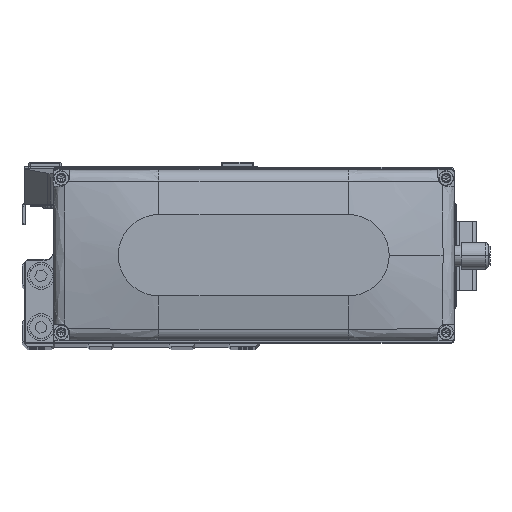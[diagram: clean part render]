
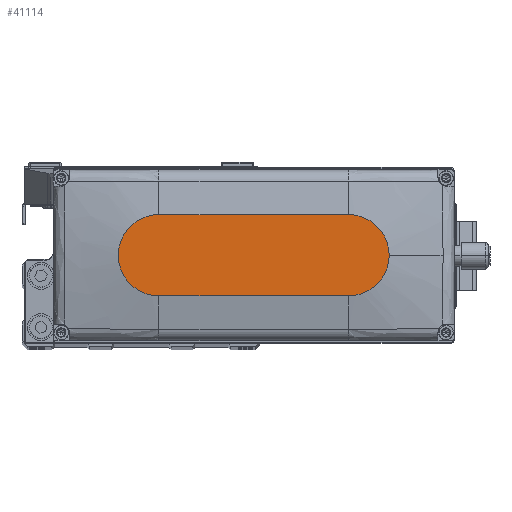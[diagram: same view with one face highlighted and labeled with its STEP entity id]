
A CAD part, top view. The second image highlights one B-rep face of the part: STEP entity #41114.
In plain terms, the highlighted planar face has unit normal (0, 0, 1).
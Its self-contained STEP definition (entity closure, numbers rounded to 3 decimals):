
#1634 = DIRECTION ( 'NONE',  ( 1., 0., 0. ) ) ;
#1853 = AXIS2_PLACEMENT_3D ( 'NONE', #15791, #30787, #45799 ) ;
#3166 = VERTEX_POINT ( 'NONE', #39329 ) ;
#3648 = DIRECTION ( 'NONE',  ( 1., 0., 0. ) ) ;
#3756 = EDGE_CURVE ( 'NONE', #29617, #7966, #44303, .T. ) ;
#4377 = EDGE_CURVE ( 'NONE', #3166, #38015, #37286, .T. ) ;
#5183 = CARTESIAN_POINT ( 'NONE',  ( 35., 0., 35. ) ) ;
#5510 = DIRECTION ( 'NONE',  ( 0., 0., 1. ) ) ;
#6248 = LINE ( 'NONE', #21286, #8942 ) ;
#6611 = CARTESIAN_POINT ( 'NONE',  ( -35., 15., 35. ) ) ;
#7966 = VERTEX_POINT ( 'NONE', #42661 ) ;
#8018 = CARTESIAN_POINT ( 'NONE',  ( 35., 15., 35. ) ) ;
#8442 = ORIENTED_EDGE ( 'NONE', *, *, #46826, .T. ) ;
#8727 = AXIS2_PLACEMENT_3D ( 'NONE', #39239, #5510, #20540 ) ;
#8942 = VECTOR ( 'NONE', #36270, 1000. ) ;
#9212 = FACE_OUTER_BOUND ( 'NONE', #17424, .T. ) ;
#11989 = EDGE_CURVE ( 'NONE', #18919, #29617, #6248, .T. ) ;
#15791 = CARTESIAN_POINT ( 'NONE',  ( -35., 0., 35. ) ) ;
#16070 = AXIS2_PLACEMENT_3D ( 'NONE', #22391, #37376, #3648 ) ;
#17424 = EDGE_LOOP ( 'NONE', ( #33823, #42800, #8442, #30718, #29832 ) ) ;
#18919 = VERTEX_POINT ( 'NONE', #8018 ) ;
#20212 = DIRECTION ( 'NONE',  ( 0., 0., 1. ) ) ;
#20382 = LINE ( 'NONE', #35364, #45460 ) ;
#20540 = DIRECTION ( 'NONE',  ( 1., 0., 0. ) ) ;
#21286 = CARTESIAN_POINT ( 'NONE',  ( -35., 15., 35. ) ) ;
#22391 = CARTESIAN_POINT ( 'NONE',  ( 35., 0., 35. ) ) ;
#24255 = PLANE ( 'NONE',  #8727 ) ;
#24290 = CARTESIAN_POINT ( 'NONE',  ( 50., 0., 35. ) ) ;
#28244 = EDGE_CURVE ( 'NONE', #38015, #18919, #41482, .T. ) ;
#29617 = VERTEX_POINT ( 'NONE', #6611 ) ;
#29832 = ORIENTED_EDGE ( 'NONE', *, *, #28244, .T. ) ;
#30718 = ORIENTED_EDGE ( 'NONE', *, *, #4377, .T. ) ;
#30787 = DIRECTION ( 'NONE',  ( 0., 0., 1. ) ) ;
#33823 = ORIENTED_EDGE ( 'NONE', *, *, #11989, .T. ) ;
#35198 = DIRECTION ( 'NONE',  ( 1., 0., 0. ) ) ;
#35364 = CARTESIAN_POINT ( 'NONE',  ( -35., -15., 35. ) ) ;
#36270 = DIRECTION ( 'NONE',  ( -1., 0., 0. ) ) ;
#37286 = CIRCLE ( 'NONE', #16070, 15. ) ;
#37376 = DIRECTION ( 'NONE',  ( 0., 0., 1. ) ) ;
#38015 = VERTEX_POINT ( 'NONE', #24290 ) ;
#39239 = CARTESIAN_POINT ( 'NONE',  ( 0., 0., 35. ) ) ;
#39329 = CARTESIAN_POINT ( 'NONE',  ( 35., -15., 35. ) ) ;
#41114 = ADVANCED_FACE ( 'NONE', ( #9212 ), #24255, .T. ) ;
#41482 = CIRCLE ( 'NONE', #47769, 15. ) ;
#42661 = CARTESIAN_POINT ( 'NONE',  ( -35., -15., 35. ) ) ;
#42800 = ORIENTED_EDGE ( 'NONE', *, *, #3756, .T. ) ;
#44303 = CIRCLE ( 'NONE', #1853, 15. ) ;
#45460 = VECTOR ( 'NONE', #1634, 1000. ) ;
#45799 = DIRECTION ( 'NONE',  ( 1., 0., 0. ) ) ;
#46826 = EDGE_CURVE ( 'NONE', #7966, #3166, #20382, .T. ) ;
#47769 = AXIS2_PLACEMENT_3D ( 'NONE', #5183, #20212, #35198 ) ;
